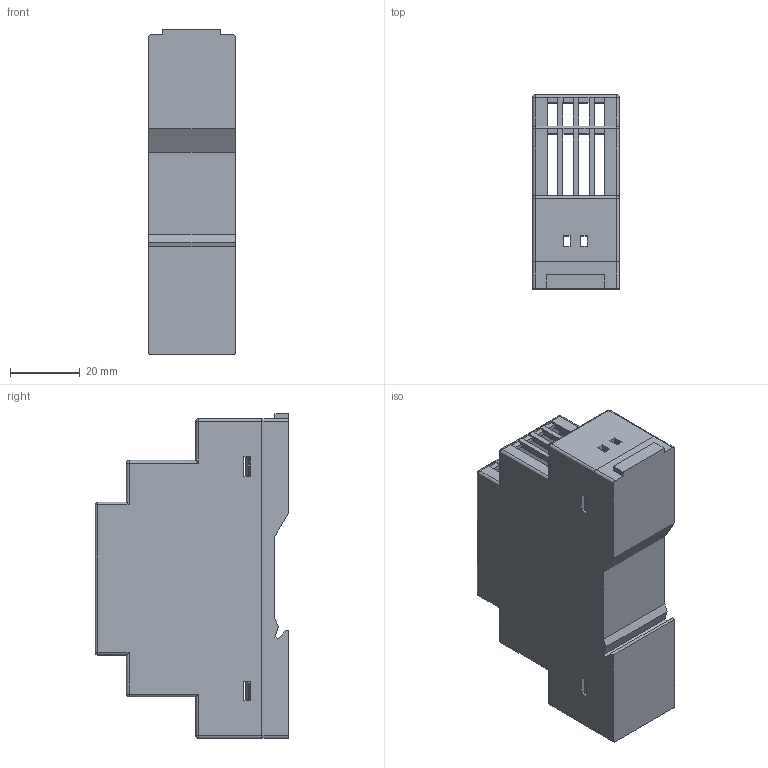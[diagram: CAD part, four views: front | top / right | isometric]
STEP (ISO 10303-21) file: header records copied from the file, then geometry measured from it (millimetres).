
FILE_DESCRIPTION (( 'STEP AP214' ), '1' );
FILE_NAME ('DR-15-24 (Baugruppe).STEP', '2019-12-12T13:04:10', ( '' ), ( '' ), 'SwSTEP 2.0', 'SolidWorks 2019', '' );
FILE_SCHEMA (( 'AUTOMOTIVE_DESIGN' ));
Length unit declared in the file: millimetre
Products named in the file (3): DR-15-24 (Baugruppe); DR-15-24 (Oberteil); DR-15-24 (Unterteil)
Assembly tree (2 placements, depth 2):
  DR-15-24 (Baugruppe)
    DR-15-24 (Oberteil)
    DR-15-24 (Unterteil)
Bounding box: 25 x 55.75 x 93.5 mm (x, y, z)
Volume: 32693.4 mm3; surface area: 29104.3 mm2
Topology: 2 solids, 2 shells, 348 faces, 932 edges, 562 vertices
Faces by surface type: plane 292, cylinder 44, sphere 12
Entity records: 10678 total; most frequent: CARTESIAN_POINT 1859, ORIENTED_EDGE 1840, DIRECTION 1690, EDGE_CURVE 920, VECTOR 840, LINE 840, VERTEX_POINT 562, AXIS2_PLACEMENT_3D 425
